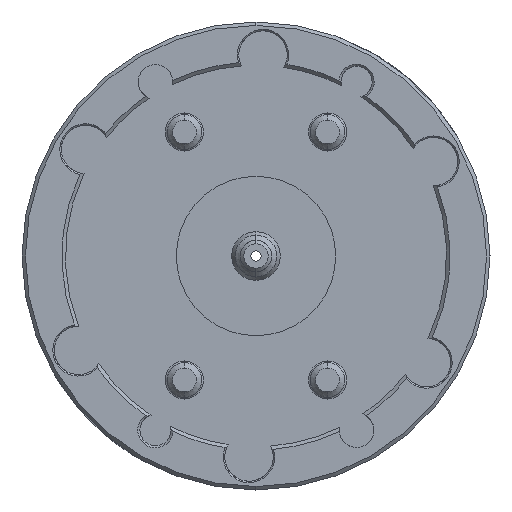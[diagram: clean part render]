
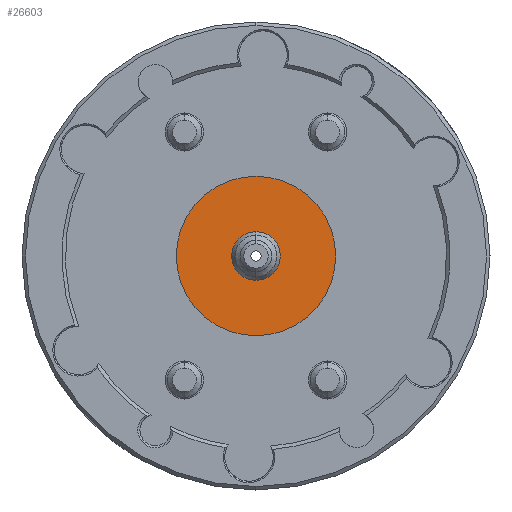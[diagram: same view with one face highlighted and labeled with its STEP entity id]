
A CAD part, left-side view. The second image highlights one B-rep face of the part: STEP entity #26603.
In plain terms, the highlighted planar face has unit normal (-1, 0, 0).
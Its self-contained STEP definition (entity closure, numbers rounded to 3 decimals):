
#491 = ORIENTED_EDGE ( 'NONE', *, *, #39615, .F. ) ;
#557 = DIRECTION ( 'NONE',  ( 0., 0., -1. ) ) ;
#1190 = CARTESIAN_POINT ( 'NONE',  ( -100., 0., 0. ) ) ;
#1361 = ORIENTED_EDGE ( 'NONE', *, *, #30773, .F. ) ;
#2695 = CARTESIAN_POINT ( 'NONE',  ( -100., 0., 0. ) ) ;
#3193 = CARTESIAN_POINT ( 'NONE',  ( -100., 0., 7. ) ) ;
#3267 = VERTEX_POINT ( 'NONE', #23090 ) ;
#4172 = AXIS2_PLACEMENT_3D ( 'NONE', #2695, #27120, #6258 ) ;
#4503 = PLANE ( 'NONE',  #16159 ) ;
#4735 = DIRECTION ( 'NONE',  ( 0., 0., -1. ) ) ;
#6258 = DIRECTION ( 'NONE',  ( 0., 0., 1. ) ) ;
#7415 = VERTEX_POINT ( 'NONE', #3193 ) ;
#8146 = CARTESIAN_POINT ( 'NONE',  ( -100., 0., 0. ) ) ;
#8211 = DIRECTION ( 'NONE',  ( 0., 0.259, 0.966 ) ) ;
#8761 = CIRCLE ( 'NONE', #29562, 23. ) ;
#11646 = DIRECTION ( 'NONE',  ( 0., 0., 1. ) ) ;
#11858 = VERTEX_POINT ( 'NONE', #36855 ) ;
#12279 = EDGE_LOOP ( 'NONE', ( #44270, #44695 ) ) ;
#12551 = EDGE_LOOP ( 'NONE', ( #491, #1361 ) ) ;
#14795 = CIRCLE ( 'NONE', #32641, 7. ) ;
#15868 = CARTESIAN_POINT ( 'NONE',  ( -100., 0., -7. ) ) ;
#16159 = AXIS2_PLACEMENT_3D ( 'NONE', #42581, #29031, #8211 ) ;
#18555 = CIRCLE ( 'NONE', #35622, 23. ) ;
#19506 = FACE_BOUND ( 'NONE', #12279, .T. ) ;
#21540 = DIRECTION ( 'NONE',  ( 1., 0., 0. ) ) ;
#23090 = CARTESIAN_POINT ( 'NONE',  ( -100., 0., 23. ) ) ;
#25642 = DIRECTION ( 'NONE',  ( 1., 0., 0. ) ) ;
#26603 = ADVANCED_FACE ( 'NONE', ( #19506, #37742 ), #4503, .T. ) ;
#27120 = DIRECTION ( 'NONE',  ( 1., 0., 0. ) ) ;
#29031 = DIRECTION ( 'NONE',  ( -1., 0., 0. ) ) ;
#29562 = AXIS2_PLACEMENT_3D ( 'NONE', #42032, #21540, #557 ) ;
#30773 = EDGE_CURVE ( 'NONE', #3267, #11858, #18555, .T. ) ;
#32432 = DIRECTION ( 'NONE',  ( 1., 0., 0. ) ) ;
#32640 = VERTEX_POINT ( 'NONE', #15868 ) ;
#32641 = AXIS2_PLACEMENT_3D ( 'NONE', #8146, #32432, #11646 ) ;
#35622 = AXIS2_PLACEMENT_3D ( 'NONE', #1190, #25642, #4735 ) ;
#36855 = CARTESIAN_POINT ( 'NONE',  ( -100., 0., -23. ) ) ;
#37413 = EDGE_CURVE ( 'NONE', #7415, #32640, #14795, .T. ) ;
#37742 = FACE_OUTER_BOUND ( 'NONE', #12551, .T. ) ;
#39615 = EDGE_CURVE ( 'NONE', #11858, #3267, #8761, .T. ) ;
#39941 = CIRCLE ( 'NONE', #4172, 7. ) ;
#40847 = EDGE_CURVE ( 'NONE', #32640, #7415, #39941, .T. ) ;
#42032 = CARTESIAN_POINT ( 'NONE',  ( -100., 0., 0. ) ) ;
#42581 = CARTESIAN_POINT ( 'NONE',  ( -100., 10.046, -2.692 ) ) ;
#44270 = ORIENTED_EDGE ( 'NONE', *, *, #40847, .T. ) ;
#44695 = ORIENTED_EDGE ( 'NONE', *, *, #37413, .T. ) ;
